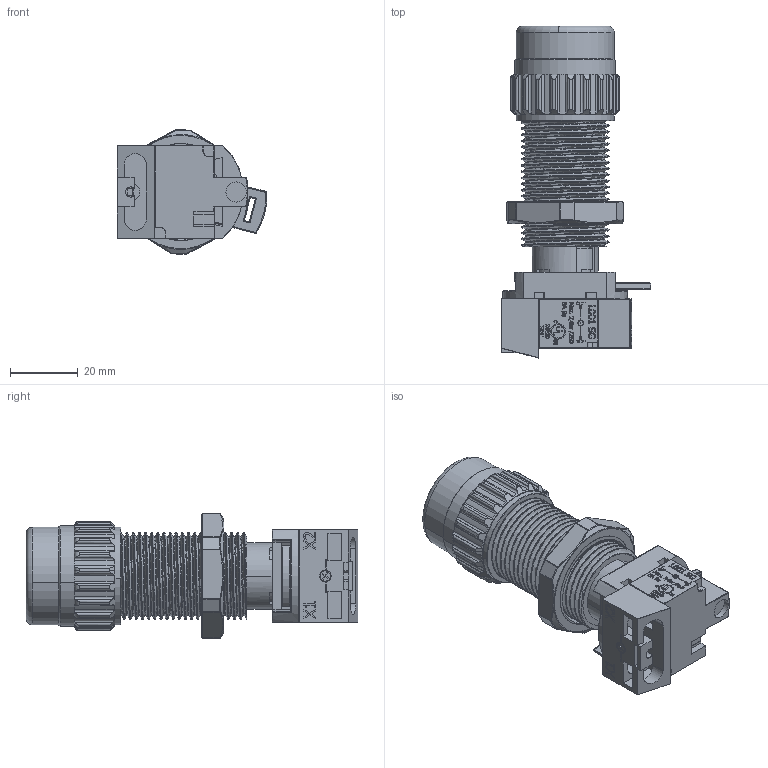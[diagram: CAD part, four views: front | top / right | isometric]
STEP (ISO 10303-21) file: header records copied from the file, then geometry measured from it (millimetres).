
FILE_DESCRIPTION (( 'STEP AP203' ), '1' );
FILE_NAME ('EPCS-PL-LED-24V-A-XL.STEP', '2025-04-04T18:48:05', ( '' ), ( '' ), 'SwSTEP 2.0', 'SolidWorks 2020', '' );
FILE_SCHEMA (( 'CONFIG_CONTROL_DESIGN' ));
Length unit declared in the file: inch
Products named in the file (17): PART. LED.stp; CORPO COOPER.stp; CAPA LED BOTAO LUMINOSO 24 YLW.stp; ANEL 34NPSM.stp; 145.stp; BASE LED.stp; SGE-LEDXAM02.stp; AR29 P VIDEO.stp; L001M UL.stp; 1000-101-GPF_GPD.stp; EPCS-PL-LED-24V-A-XL; ACOPLA L SG rev.stp; GAIOLA SG.stp; GAIOLA PART 2.stp; CANOPLAVM1_CPY_YLW.stp; L001 UL.stp; MOLDURA 3 NOVA.stp
Assembly tree (16 placements, depth 3):
  EPCS-PL-LED-24V-A-XL
    L001 UL.stp
      L001M UL.stp
      GAIOLA SG.stp
      GAIOLA PART 2.stp
    SGE-LEDXAM02.stp
      BASE LED.stp
      CAPA LED BOTAO LUMINOSO 24 YLW.stp
      1000-101-GPF_GPD.stp
      PART. LED.stp
    CORPO COOPER.stp
    ANEL 34NPSM.stp
    AR29 P VIDEO.stp
    ACOPLA L SG rev.stp
    145.stp
    MOLDURA 3 NOVA.stp
    CANOPLAVM1_CPY_YLW.stp
Bounding box: 44.3 x 98.17 x 36.87 mm (x, y, z)
Volume: 50453.5 mm3; surface area: 46335.7 mm2
Topology: 22 solids, 22 shells, 2367 faces, 6404 edges, 4140 vertices
Faces by surface type: plane 901, cylinder 754, bspline 524, torus 108, sphere 41, cone 39
Entity records: 117847 total; most frequent: CARTESIAN_POINT 60928, ORIENTED_EDGE 12704, DIRECTION 9690, EDGE_CURVE 6352, VERTEX_POINT 4130, AXIS2_PLACEMENT_3D 3325, VECTOR 3040, LINE 3040
